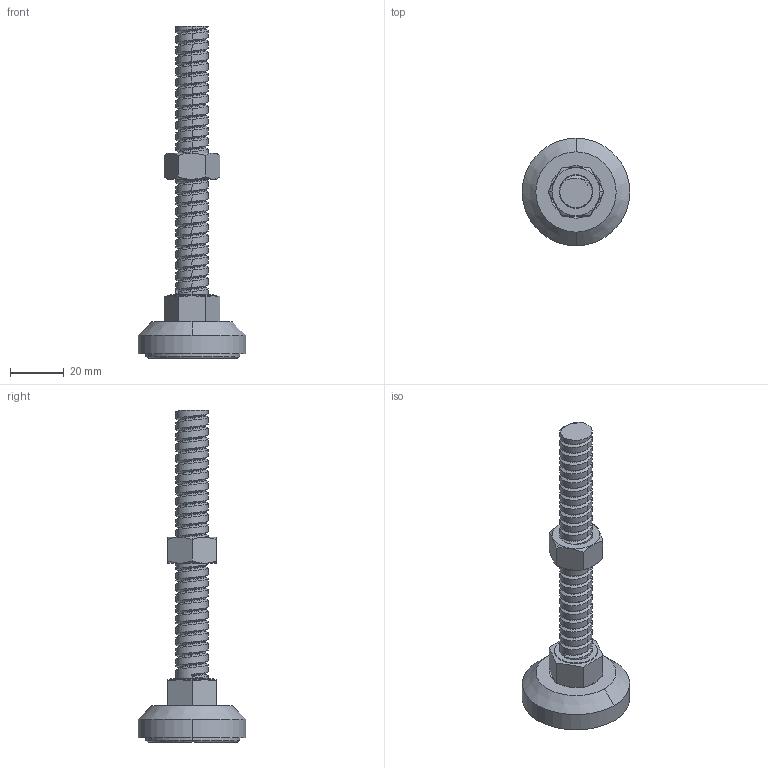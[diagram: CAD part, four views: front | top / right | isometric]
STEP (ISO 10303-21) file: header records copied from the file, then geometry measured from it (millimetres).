
FILE_DESCRIPTION (( 'STEP AP203' ), '1' );
FILE_NAME ('F-102-2-4012-100.STEP', '2015-11-24T02:18:44', ( '' ), ( '' ), 'SwSTEP 2.0', 'SolidWorks 2014', '' );
FILE_SCHEMA (( 'CONFIG_CONTROL_DESIGN' ));
Length unit declared in the file: millimetre
Products named in the file (5): M12X100L-10調整螺絲; 40圓鐵蓋; 40橡膠墊; M12螺帽; F-102-2-4012-100
Assembly tree (4 placements, depth 2):
  F-102-2-4012-100
    M12X100L-10調整螺絲
    40圓鐵蓋
    40橡膠墊
    M12螺帽
Bounding box: 40 x 40 x 123.45 mm (x, y, z)
Volume: 30882.1 mm3; surface area: 14951.2 mm2
Topology: 4 solids, 4 shells, 166 faces, 406 edges, 257 vertices
Faces by surface type: cylinder 77, cone 42, plane 30, bspline 17
Entity records: 11856 total; most frequent: CARTESIAN_POINT 7873, ORIENTED_EDGE 812, DIRECTION 654, EDGE_CURVE 406, AXIS2_PLACEMENT_3D 260, VERTEX_POINT 257, EDGE_LOOP 179, ADVANCED_FACE 166
